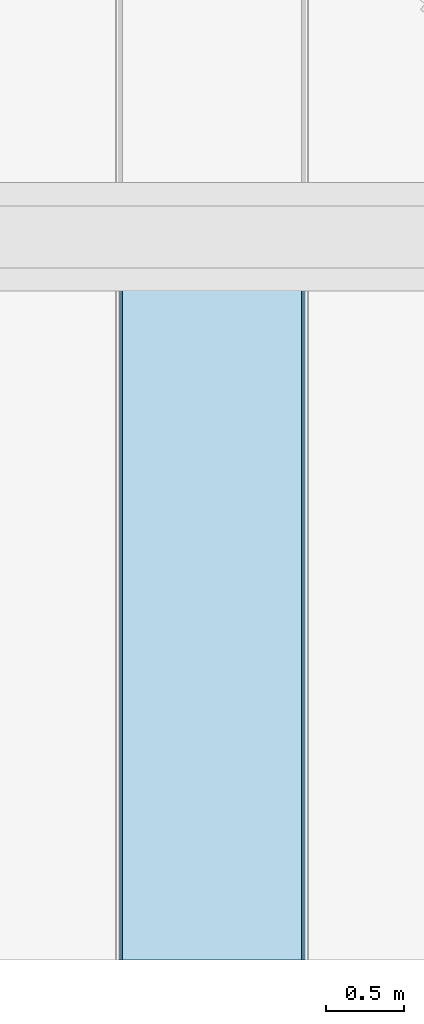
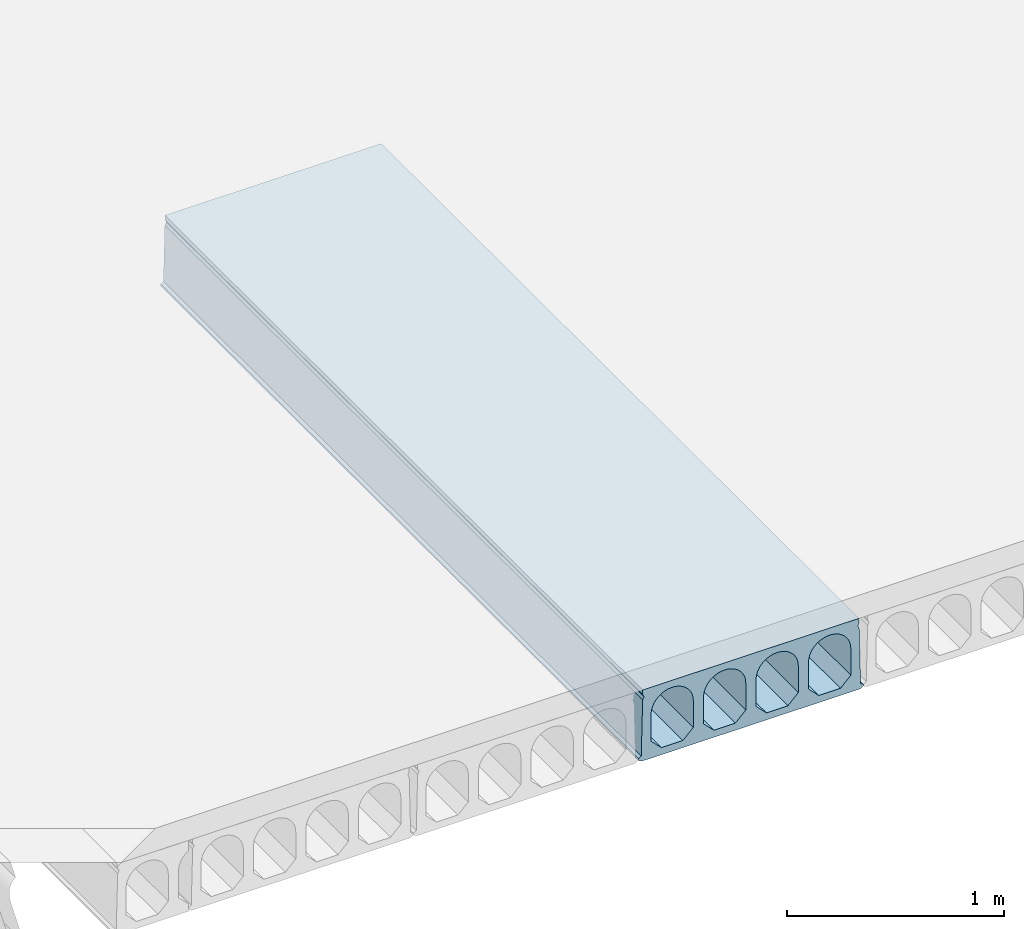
# One storey, part 46 of 98: 1 slab.
"""IFC2X3 building model written with IfcOpenShell, lengths in millimetres."""

from ifc_helpers import new_model, entity, si_unit, converted_unit, derived_unit, direction, frame, origin_with_axes, place, context, subcontext, project, spatial, faceted_brep, type_object, element, save


model = new_model("IFC2X3")

# Units and contexts
model_context = context("Model", 3, precision=0.01, world=frame((0.0, 4.29681676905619e-09, 0.0)), true_north=direction((4.01073788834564e-13, 1.0)))
plan_context = context("Plan", 3, precision=0.01, world=frame((0.0, 4.29681676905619e-09, 0.0)), true_north=direction((4.01073788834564e-13, 1.0)))
body_context = subcontext(model_context, "Body", "Model", "MODEL_VIEW")
ifc_project = project(units=[converted_unit("PLANEANGLEUNIT", "DEGREE", entity("IfcPositiveLengthMeasure", 0.0174532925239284), si_unit("PLANEANGLEUNIT", "RADIAN"), dimensions=[0, 0, 0, 0, 0, 0, 0]), si_unit("AREAUNIT", "SQUARE_METRE"), si_unit("LENGTHUNIT", "METRE", prefix="MILLI"), si_unit("MASSUNIT", "GRAM", prefix="KILO"), si_unit("POWERUNIT", "WATT"), si_unit("PRESSUREUNIT", "PASCAL"), si_unit("FORCEUNIT", "NEWTON", prefix="KILO"), si_unit("ELECTRICCURRENTUNIT", "AMPERE"), si_unit("THERMODYNAMICTEMPERATUREUNIT", "DEGREE_CELSIUS"), si_unit("TIMEUNIT", "SECOND"), si_unit("VOLUMEUNIT", "CUBIC_METRE"), derived_unit("LINEARVELOCITYUNIT", [(si_unit("LENGTHUNIT", "METRE"), 1), (si_unit("TIMEUNIT", "SECOND"), -1)]), derived_unit("VOLUMETRICFLOWRATEUNIT", [(si_unit("VOLUMEUNIT", "CUBIC_METRE"), 1), (si_unit("TIMEUNIT", "SECOND"), -1)]), derived_unit("THERMALTRANSMITTANCEUNIT", [(si_unit("POWERUNIT", "WATT"), 1), (si_unit("THERMODYNAMICTEMPERATUREUNIT", "KELVIN"), -1), (si_unit("AREAUNIT", "SQUARE_METRE"), -1)])], contexts=[model_context, plan_context])

# Site, building, storey
site_placement = place(None, frame((0.0, -4.29681676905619e-09, 0.0), z_axis=(0.0, 0.0, 1.0), x_axis=(1.0, 0.0, 0.0)))
site = spatial("IfcSite", under=ifc_project, at=site_placement, Name="Gardermoen", CompositionType="ELEMENT")
building_placement = place(site_placement, frame((0.0, 4.29681676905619e-09, 0.0), z_axis=(0.0, 0.0, 1.0), x_axis=(1.0, 0.0, 0.0)))
building = spatial("IfcBuilding", under=site, at=building_placement, Name="TS", CompositionType="ELEMENT")
storey_placement = place(building_placement, origin_with_axes())
storey = spatial("IfcBuildingStorey", under=building, at=storey_placement, Name="D", CompositionType="ELEMENT", Elevation=0.0)

# Slab
slab_type = type_object("IfcSlabType", Name="HD400", PredefinedType="NOTDEFINED")
slab_placement = place(storey_placement, frame((523599.999766, 396739.995625, 203600.0), z_axis=(0.0, 0.0, 1.0), x_axis=(0.0, 1.0, 0.0)))
element("IfcSlab", 1, at=slab_placement, inside=storey, type_object=slab_type, Name="HULLDEKKE", ObjectType="HD400", PredefinedType="FLOOR", context=body_context, shape_type="Brep", body=[
    faceted_brep([(4105.68103395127, 600.0, -180.0), (4105.68103395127, 600.0, -190.0), (8520.0, 600.0, -190.0), (8520.0, 600.0, -180.0), (4105.68103395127, 585.0, -170.0), (8520.0, 585.0, -170.0), (4105.68103395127, 577.5, 145.0), (8520.0, 577.5, 145.0), (4105.68103395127, 570.0, 160.0), (8520.0, 570.0, 160.0), (4105.68103395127, 577.5, 175.0), (8520.0, 577.5, 175.0), (4105.68103395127, 577.5, 200.0), (8520.0, 577.5, 200.0), (4105.68103395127, -577.5, 200.0), (8520.0, -577.5, 200.0), (4105.68103395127, -577.5, 175.0), (8520.0, -577.5, 175.0), (4105.68103395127, -570.0, 160.0), (8520.0, -570.0, 160.0), (4105.68103395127, -577.5, 145.0), (8520.0, -577.5, 145.0), (4105.68103395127, -585.0, -170.0), (8520.0, -585.0, -170.0), (4105.68103395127, -600.0, -180.0), (8520.0, -600.0, -180.0), (4105.68103395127, -600.0, -190.0), (8520.0, -600.0, -190.0), (4105.68103395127, -583.380004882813, -200.0), (8520.0, -583.380004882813, -200.0), (4105.68103395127, 583.380004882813, -200.0), (8520.0, 583.380004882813, -200.0), (4105.68103395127, -477.5, -160.0), (4105.68103395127, -362.5, -160.0), (8520.0, -362.5, -160.0), (8520.0, -477.5, -160.0), (4105.68103395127, -532.5, -105.0), (8520.0, -532.5, -105.0), (4105.68103395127, -532.5, 47.5), (8520.0, -532.5, 47.5), (4105.68103395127, -532.115755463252, 56.7901763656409), (8520.0, -532.115755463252, 56.7901763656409), (4105.68103395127, -530.965646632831, 66.0168914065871), (8520.0, -530.965646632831, 66.0168914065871), (4105.68103395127, -529.057529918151, 75.1171173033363), (8520.0, -529.057529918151, 75.1171173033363), (4105.68103395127, -526.404439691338, 84.028690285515), (8520.0, -526.404439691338, 84.028690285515), (4105.68103395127, -523.024499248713, 92.6907352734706), (8520.0, -523.024499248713, 92.6907352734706), (4105.68103395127, -518.940797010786, 101.044081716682), (8520.0, -518.940797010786, 101.044081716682), (4105.68103395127, -514.181228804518, 109.031667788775), (8520.0, -514.181228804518, 109.031667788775), (4105.68103395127, -508.778307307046, 116.598930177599), (8520.0, -508.778307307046, 116.598930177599), (4105.68103395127, -502.768939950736, 123.694176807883), (8520.0, -502.768939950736, 123.694176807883), (4105.68103395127, -496.194176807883, 130.268939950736), (8520.0, -496.194176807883, 130.268939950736), (4105.68103395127, -489.098930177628, 136.278307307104), (8520.0, -489.098930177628, 136.278307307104), (4105.68103395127, -481.531667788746, 141.681228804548), (8520.0, -481.531667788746, 141.681228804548), (4105.68103395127, -473.544081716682, 146.440797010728), (8520.0, -473.544081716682, 146.440797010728), (4105.68103395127, -465.190735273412, 150.524499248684), (8520.0, -465.190735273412, 150.524499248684), (4105.68103395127, -456.528690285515, 153.904439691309), (8520.0, -456.528690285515, 153.904439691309), (4105.68103395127, -447.617117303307, 156.55752991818), (8520.0, -447.617117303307, 156.55752991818), (4105.68103395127, -438.516891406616, 158.465646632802), (8520.0, -438.516891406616, 158.465646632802), (4105.68103395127, -429.290176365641, 159.615755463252), (8520.0, -429.290176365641, 159.615755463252), (4105.68103395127, -420.0, 160.0), (8520.0, -420.0, 160.0), (4105.68103395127, -410.709823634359, 159.615755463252), (8520.0, -410.709823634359, 159.615755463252), (4105.68103395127, -401.483108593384, 158.465646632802), (8520.0, -401.483108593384, 158.465646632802), (4105.68103395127, -392.382882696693, 156.55752991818), (8520.0, -392.382882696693, 156.55752991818), (4105.68103395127, -383.471309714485, 153.904439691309), (8520.0, -383.471309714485, 153.904439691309), (4105.68103395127, -374.809264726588, 150.524499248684), (8520.0, -374.809264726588, 150.524499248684), (4105.68103395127, -366.455918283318, 146.440797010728), (8520.0, -366.455918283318, 146.440797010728), (4105.68103395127, -358.468332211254, 141.681228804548), (8520.0, -358.468332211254, 141.681228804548), (4105.68103395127, -350.901069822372, 136.278307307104), (8520.0, -350.901069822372, 136.278307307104), (4105.68103395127, -343.805823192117, 130.268939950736), (8520.0, -343.805823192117, 130.268939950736), (4105.68103395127, -337.231060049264, 123.694176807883), (8520.0, -337.231060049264, 123.694176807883), (4105.68103395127, -331.221692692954, 116.598930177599), (8520.0, -331.221692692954, 116.598930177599), (4105.68103395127, -325.818771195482, 109.031667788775), (8520.0, -325.818771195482, 109.031667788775), (4105.68103395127, -321.059202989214, 101.044081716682), (8520.0, -321.059202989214, 101.044081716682), (4105.68103395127, -316.975500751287, 92.6907352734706), (8520.0, -316.975500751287, 92.6907352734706), (4105.68103395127, -313.595560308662, 84.028690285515), (8520.0, -313.595560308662, 84.028690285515), (4105.68103395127, -310.942470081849, 75.1171173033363), (8520.0, -310.942470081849, 75.1171173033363), (4105.68103395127, -309.034353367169, 66.0168914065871), (8520.0, -309.034353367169, 66.0168914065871), (4105.68103395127, -307.884244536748, 56.7901763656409), (8520.0, -307.884244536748, 56.7901763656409), (4105.68103395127, -307.5, 47.5), (8520.0, -307.5, 47.5), (4105.68103395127, -307.5, -105.0), (8520.0, -307.5, -105.0), (4105.68103395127, -197.5, -160.0), (4105.68103395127, -82.5, -160.0), (8520.0, -82.5, -160.0), (8520.0, -197.5, -160.0), (4105.68103395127, -252.5, -105.0), (8520.0, -252.5, -105.0), (4105.68103395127, -252.5, 47.5), (8520.0, -252.5, 47.5), (4105.68103395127, -252.115755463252, 56.7901763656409), (8520.0, -252.115755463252, 56.7901763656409), (4105.68103395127, -250.965646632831, 66.0168914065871), (8520.0, -250.965646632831, 66.0168914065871), (4105.68103395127, -249.057529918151, 75.1171173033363), (8520.0, -249.057529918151, 75.1171173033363), (4105.68103395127, -246.404439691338, 84.028690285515), (8520.0, -246.404439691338, 84.028690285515), (4105.68103395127, -243.024499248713, 92.6907352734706), (8520.0, -243.024499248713, 92.6907352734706), (4105.68103395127, -238.940797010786, 101.044081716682), (8520.0, -238.940797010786, 101.044081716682), (4105.68103395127, -234.181228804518, 109.031667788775), (8520.0, -234.181228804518, 109.031667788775), (4105.68103395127, -228.778307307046, 116.598930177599), (8520.0, -228.778307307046, 116.598930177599), (4105.68103395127, -222.768939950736, 123.694176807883), (8520.0, -222.768939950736, 123.694176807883), (4105.68103395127, -216.194176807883, 130.268939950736), (8520.0, -216.194176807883, 130.268939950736), (4105.68103395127, -209.098930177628, 136.278307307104), (8520.0, -209.098930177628, 136.278307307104), (4105.68103395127, -201.531667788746, 141.681228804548), (8520.0, -201.531667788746, 141.681228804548), (4105.68103395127, -193.544081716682, 146.440797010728), (8520.0, -193.544081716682, 146.440797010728), (4105.68103395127, -185.190735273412, 150.524499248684), (8520.0, -185.190735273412, 150.524499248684), (4105.68103395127, -176.528690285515, 153.904439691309), (8520.0, -176.528690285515, 153.904439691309), (4105.68103395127, -167.617117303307, 156.55752991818), (8520.0, -167.617117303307, 156.55752991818), (4105.68103395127, -158.516891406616, 158.465646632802), (8520.0, -158.516891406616, 158.465646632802), (4105.68103395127, -149.290176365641, 159.615755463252), (8520.0, -149.290176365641, 159.615755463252), (4105.68103395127, -140.0, 160.0), (8520.0, -140.0, 160.0), (4105.68103395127, -130.709823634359, 159.615755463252), (8520.0, -130.709823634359, 159.615755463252), (4105.68103395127, -121.483108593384, 158.465646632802), (8520.0, -121.483108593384, 158.465646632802), (4105.68103395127, -112.382882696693, 156.55752991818), (8520.0, -112.382882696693, 156.55752991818), (4105.68103395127, -103.471309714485, 153.904439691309), (8520.0, -103.471309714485, 153.904439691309), (4105.68103395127, -94.8092647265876, 150.524499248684), (8520.0, -94.8092647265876, 150.524499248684), (4105.68103395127, -86.4559182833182, 146.440797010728), (8520.0, -86.4559182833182, 146.440797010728), (4105.68103395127, -78.4683322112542, 141.681228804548), (8520.0, -78.4683322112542, 141.681228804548), (4105.68103395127, -70.9010698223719, 136.278307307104), (8520.0, -70.9010698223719, 136.278307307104), (4105.68103395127, -63.8058231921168, 130.268939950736), (8520.0, -63.8058231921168, 130.268939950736), (4105.68103395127, -57.2310600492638, 123.694176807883), (8520.0, -57.2310600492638, 123.694176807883), (4105.68103395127, -51.2216926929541, 116.598930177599), (8520.0, -51.2216926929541, 116.598930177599), (4105.68103395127, -45.8187711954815, 109.031667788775), (8520.0, -45.8187711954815, 109.031667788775), (4105.68103395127, -41.0592029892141, 101.044081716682), (8520.0, -41.0592029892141, 101.044081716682), (4105.68103395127, -36.9755007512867, 92.6907352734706), (8520.0, -36.9755007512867, 92.6907352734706), (4105.68103395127, -33.5955603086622, 84.028690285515), (8520.0, -33.5955603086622, 84.028690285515), (4105.68103395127, -30.942470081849, 75.1171173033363), (8520.0, -30.942470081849, 75.1171173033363), (4105.68103395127, -29.0343533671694, 66.0168914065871), (8520.0, -29.0343533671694, 66.0168914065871), (4105.68103395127, -27.8842445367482, 56.7901763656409), (8520.0, -27.8842445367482, 56.7901763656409), (4105.68103395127, -27.5, 47.5), (8520.0, -27.5, 47.5), (4105.68103395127, -27.5, -105.0), (8520.0, -27.5, -105.0), (4105.68103395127, 82.5, -160.0), (4105.68103395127, 197.5, -160.0), (8520.0, 197.5, -160.0), (8520.0, 82.5, -160.0), (4105.68103395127, 27.5, -105.0), (8520.0, 27.5, -105.0), (4105.68103395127, 27.5, 47.5), (8520.0, 27.5, 47.5), (4105.68103395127, 27.8842445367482, 56.7901763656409), (8520.0, 27.8842445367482, 56.7901763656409), (4105.68103395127, 29.0343533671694, 66.0168914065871), (8520.0, 29.0343533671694, 66.0168914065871), (4105.68103395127, 30.942470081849, 75.1171173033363), (8520.0, 30.942470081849, 75.1171173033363), (4105.68103395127, 33.5955603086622, 84.028690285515), (8520.0, 33.5955603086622, 84.028690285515), (4105.68103395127, 36.9755007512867, 92.6907352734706), (8520.0, 36.9755007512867, 92.6907352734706), (4105.68103395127, 41.0592029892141, 101.044081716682), (8520.0, 41.0592029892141, 101.044081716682), (4105.68103395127, 45.8187711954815, 109.031667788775), (8520.0, 45.8187711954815, 109.031667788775), (4105.68103395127, 51.2216926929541, 116.598930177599), (8520.0, 51.2216926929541, 116.598930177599), (4105.68103395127, 57.2310600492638, 123.694176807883), (8520.0, 57.2310600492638, 123.694176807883), (4105.68103395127, 63.8058231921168, 130.268939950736), (8520.0, 63.8058231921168, 130.268939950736), (4105.68103395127, 70.9010698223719, 136.278307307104), (8520.0, 70.9010698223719, 136.278307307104), (4105.68103395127, 78.4683322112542, 141.681228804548), (8520.0, 78.4683322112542, 141.681228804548), (4105.68103395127, 86.4559182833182, 146.440797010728), (8520.0, 86.4559182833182, 146.440797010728), (4105.68103395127, 94.8092647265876, 150.524499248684), (8520.0, 94.8092647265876, 150.524499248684), (4105.68103395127, 103.471309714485, 153.904439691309), (8520.0, 103.471309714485, 153.904439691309), (4105.68103395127, 112.382882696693, 156.55752991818), (8520.0, 112.382882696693, 156.55752991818), (4105.68103395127, 121.483108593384, 158.465646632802), (8520.0, 121.483108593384, 158.465646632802), (4105.68103395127, 130.709823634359, 159.615755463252), (8520.0, 130.709823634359, 159.615755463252), (4105.68103395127, 140.0, 160.0), (8520.0, 140.0, 160.0), (4105.68103395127, 149.290176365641, 159.615755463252), (8520.0, 149.290176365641, 159.615755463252), (4105.68103395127, 158.516891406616, 158.465646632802), (8520.0, 158.516891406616, 158.465646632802), (4105.68103395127, 167.617117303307, 156.55752991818), (8520.0, 167.617117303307, 156.55752991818), (4105.68103395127, 176.528690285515, 153.904439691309), (8520.0, 176.528690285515, 153.904439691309), (4105.68103395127, 185.190735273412, 150.524499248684), (8520.0, 185.190735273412, 150.524499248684), (4105.68103395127, 193.544081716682, 146.440797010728), (8520.0, 193.544081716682, 146.440797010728), (4105.68103395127, 201.531667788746, 141.681228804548), (8520.0, 201.531667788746, 141.681228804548), (4105.68103395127, 209.098930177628, 136.278307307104), (8520.0, 209.098930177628, 136.278307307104), (4105.68103395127, 216.194176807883, 130.268939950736), (8520.0, 216.194176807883, 130.268939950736), (4105.68103395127, 222.768939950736, 123.694176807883), (8520.0, 222.768939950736, 123.694176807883), (4105.68103395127, 228.778307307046, 116.598930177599), (8520.0, 228.778307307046, 116.598930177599), (4105.68103395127, 234.181228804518, 109.031667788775), (8520.0, 234.181228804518, 109.031667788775), (4105.68103395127, 238.940797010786, 101.044081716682), (8520.0, 238.940797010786, 101.044081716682), (4105.68103395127, 243.024499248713, 92.6907352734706), (8520.0, 243.024499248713, 92.6907352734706), (4105.68103395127, 246.404439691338, 84.028690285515), (8520.0, 246.404439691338, 84.028690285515), (4105.68103395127, 249.057529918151, 75.1171173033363), (8520.0, 249.057529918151, 75.1171173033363), (4105.68103395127, 250.965646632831, 66.0168914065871), (8520.0, 250.965646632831, 66.0168914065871), (4105.68103395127, 252.115755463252, 56.7901763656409), (8520.0, 252.115755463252, 56.7901763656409), (4105.68103395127, 252.5, 47.5), (8520.0, 252.5, 47.5), (4105.68103395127, 252.5, -105.0), (8520.0, 252.5, -105.0), (4105.68103395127, 362.5, -160.0), (4105.68103395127, 477.5, -160.0), (8520.0, 477.5, -160.0), (8520.0, 362.5, -160.0), (4105.68103395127, 307.5, -105.0), (8520.0, 307.5, -105.0), (4105.68103395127, 307.5, 47.5), (8520.0, 307.5, 47.5), (4105.68103395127, 307.884244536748, 56.7901763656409), (8520.0, 307.884244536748, 56.7901763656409), (4105.68103395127, 309.034353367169, 66.0168914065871), (8520.0, 309.034353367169, 66.0168914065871), (4105.68103395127, 310.942470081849, 75.1171173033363), (8520.0, 310.942470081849, 75.1171173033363), (4105.68103395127, 313.595560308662, 84.028690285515), (8520.0, 313.595560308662, 84.028690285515), (4105.68103395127, 316.975500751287, 92.6907352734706), (8520.0, 316.975500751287, 92.6907352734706), (4105.68103395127, 321.059202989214, 101.044081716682), (8520.0, 321.059202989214, 101.044081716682), (4105.68103395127, 325.818771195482, 109.031667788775), (8520.0, 325.818771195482, 109.031667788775), (4105.68103395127, 331.221692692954, 116.598930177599), (8520.0, 331.221692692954, 116.598930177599), (4105.68103395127, 337.231060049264, 123.694176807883), (8520.0, 337.231060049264, 123.694176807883), (4105.68103395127, 343.805823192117, 130.268939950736), (8520.0, 343.805823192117, 130.268939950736), (4105.68103395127, 350.901069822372, 136.278307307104), (8520.0, 350.901069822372, 136.278307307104), (4105.68103395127, 358.468332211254, 141.681228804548), (8520.0, 358.468332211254, 141.681228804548), (4105.68103395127, 366.455918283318, 146.440797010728), (8520.0, 366.455918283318, 146.440797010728), (4105.68103395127, 374.809264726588, 150.524499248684), (8520.0, 374.809264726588, 150.524499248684), (4105.68103395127, 383.471309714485, 153.904439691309), (8520.0, 383.471309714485, 153.904439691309), (4105.68103395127, 392.382882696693, 156.55752991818), (8520.0, 392.382882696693, 156.55752991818), (4105.68103395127, 401.483108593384, 158.465646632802), (8520.0, 401.483108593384, 158.465646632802), (4105.68103395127, 410.709823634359, 159.615755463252), (8520.0, 410.709823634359, 159.615755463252), (4105.68103395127, 420.0, 160.0), (8520.0, 420.0, 160.0), (4105.68103395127, 429.290176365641, 159.615755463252), (8520.0, 429.290176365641, 159.615755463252), (4105.68103395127, 438.516891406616, 158.465646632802), (8520.0, 438.516891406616, 158.465646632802), (4105.68103395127, 447.617117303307, 156.55752991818), (8520.0, 447.617117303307, 156.55752991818), (4105.68103395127, 456.528690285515, 153.904439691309), (8520.0, 456.528690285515, 153.904439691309), (4105.68103395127, 465.190735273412, 150.524499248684), (8520.0, 465.190735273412, 150.524499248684), (4105.68103395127, 473.544081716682, 146.440797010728), (8520.0, 473.544081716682, 146.440797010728), (4105.68103395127, 481.531667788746, 141.681228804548), (8520.0, 481.531667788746, 141.681228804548), (4105.68103395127, 489.098930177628, 136.278307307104), (8520.0, 489.098930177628, 136.278307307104), (4105.68103395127, 496.194176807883, 130.268939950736), (8520.0, 496.194176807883, 130.268939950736), (4105.68103395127, 502.768939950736, 123.694176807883), (8520.0, 502.768939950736, 123.694176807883), (4105.68103395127, 508.778307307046, 116.598930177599), (8520.0, 508.778307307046, 116.598930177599), (4105.68103395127, 514.181228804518, 109.031667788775), (8520.0, 514.181228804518, 109.031667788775), (4105.68103395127, 518.940797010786, 101.044081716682), (8520.0, 518.940797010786, 101.044081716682), (4105.68103395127, 523.024499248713, 92.6907352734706), (8520.0, 523.024499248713, 92.6907352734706), (4105.68103395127, 526.404439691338, 84.028690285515), (8520.0, 526.404439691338, 84.028690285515), (4105.68103395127, 529.057529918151, 75.1171173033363), (8520.0, 529.057529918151, 75.1171173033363), (4105.68103395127, 530.965646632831, 66.0168914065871), (8520.0, 530.965646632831, 66.0168914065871), (4105.68103395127, 532.115755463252, 56.7901763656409), (8520.0, 532.115755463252, 56.7901763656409), (4105.68103395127, 532.5, 47.5), (8520.0, 532.5, 47.5), (4105.68103395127, 532.5, -105.0), (8520.0, 532.5, -105.0)], [[[0, 1, 2, 3]], [[4, 0, 3, 5]], [[6, 4, 5, 7]], [[8, 6, 7, 9]], [[10, 8, 9, 11]], [[12, 10, 11, 13]], [[14, 12, 13, 15]], [[16, 14, 15, 17]], [[18, 16, 17, 19]], [[20, 18, 19, 21]], [[22, 20, 21, 23]], [[24, 22, 23, 25]], [[26, 24, 25, 27]], [[28, 26, 27, 29]], [[30, 28, 29, 31]], [[1, 30, 31, 2]], [[32, 33, 34, 35]], [[36, 32, 35, 37]], [[38, 36, 37, 39]], [[40, 38, 39, 41]], [[42, 40, 41, 43]], [[44, 42, 43, 45]], [[46, 44, 45, 47]], [[48, 46, 47, 49]], [[50, 48, 49, 51]], [[52, 50, 51, 53]], [[54, 52, 53, 55]], [[56, 54, 55, 57]], [[58, 56, 57, 59]], [[60, 58, 59, 61]], [[62, 60, 61, 63]], [[64, 62, 63, 65]], [[66, 64, 65, 67]], [[68, 66, 67, 69]], [[70, 68, 69, 71]], [[72, 70, 71, 73]], [[74, 72, 73, 75]], [[76, 74, 75, 77]], [[78, 76, 77, 79]], [[80, 78, 79, 81]], [[82, 80, 81, 83]], [[84, 82, 83, 85]], [[86, 84, 85, 87]], [[88, 86, 87, 89]], [[90, 88, 89, 91]], [[92, 90, 91, 93]], [[94, 92, 93, 95]], [[96, 94, 95, 97]], [[98, 96, 97, 99]], [[100, 98, 99, 101]], [[102, 100, 101, 103]], [[104, 102, 103, 105]], [[106, 104, 105, 107]], [[108, 106, 107, 109]], [[110, 108, 109, 111]], [[112, 110, 111, 113]], [[114, 112, 113, 115]], [[116, 114, 115, 117]], [[33, 116, 117, 34]], [[118, 119, 120, 121]], [[122, 118, 121, 123]], [[124, 122, 123, 125]], [[126, 124, 125, 127]], [[128, 126, 127, 129]], [[130, 128, 129, 131]], [[132, 130, 131, 133]], [[134, 132, 133, 135]], [[136, 134, 135, 137]], [[138, 136, 137, 139]], [[140, 138, 139, 141]], [[142, 140, 141, 143]], [[144, 142, 143, 145]], [[146, 144, 145, 147]], [[148, 146, 147, 149]], [[150, 148, 149, 151]], [[152, 150, 151, 153]], [[154, 152, 153, 155]], [[156, 154, 155, 157]], [[158, 156, 157, 159]], [[160, 158, 159, 161]], [[162, 160, 161, 163]], [[164, 162, 163, 165]], [[166, 164, 165, 167]], [[168, 166, 167, 169]], [[170, 168, 169, 171]], [[172, 170, 171, 173]], [[174, 172, 173, 175]], [[176, 174, 175, 177]], [[178, 176, 177, 179]], [[180, 178, 179, 181]], [[182, 180, 181, 183]], [[184, 182, 183, 185]], [[186, 184, 185, 187]], [[188, 186, 187, 189]], [[190, 188, 189, 191]], [[192, 190, 191, 193]], [[194, 192, 193, 195]], [[196, 194, 195, 197]], [[198, 196, 197, 199]], [[200, 198, 199, 201]], [[202, 200, 201, 203]], [[119, 202, 203, 120]], [[204, 205, 206, 207]], [[208, 204, 207, 209]], [[210, 208, 209, 211]], [[212, 210, 211, 213]], [[214, 212, 213, 215]], [[216, 214, 215, 217]], [[218, 216, 217, 219]], [[220, 218, 219, 221]], [[222, 220, 221, 223]], [[224, 222, 223, 225]], [[226, 224, 225, 227]], [[228, 226, 227, 229]], [[230, 228, 229, 231]], [[232, 230, 231, 233]], [[234, 232, 233, 235]], [[236, 234, 235, 237]], [[238, 236, 237, 239]], [[240, 238, 239, 241]], [[242, 240, 241, 243]], [[244, 242, 243, 245]], [[246, 244, 245, 247]], [[248, 246, 247, 249]], [[250, 248, 249, 251]], [[252, 250, 251, 253]], [[254, 252, 253, 255]], [[256, 254, 255, 257]], [[258, 256, 257, 259]], [[260, 258, 259, 261]], [[262, 260, 261, 263]], [[264, 262, 263, 265]], [[266, 264, 265, 267]], [[268, 266, 267, 269]], [[270, 268, 269, 271]], [[272, 270, 271, 273]], [[274, 272, 273, 275]], [[276, 274, 275, 277]], [[278, 276, 277, 279]], [[280, 278, 279, 281]], [[282, 280, 281, 283]], [[284, 282, 283, 285]], [[286, 284, 285, 287]], [[288, 286, 287, 289]], [[205, 288, 289, 206]], [[290, 291, 292, 293]], [[294, 290, 293, 295]], [[296, 294, 295, 297]], [[298, 296, 297, 299]], [[300, 298, 299, 301]], [[302, 300, 301, 303]], [[304, 302, 303, 305]], [[306, 304, 305, 307]], [[308, 306, 307, 309]], [[310, 308, 309, 311]], [[312, 310, 311, 313]], [[314, 312, 313, 315]], [[316, 314, 315, 317]], [[318, 316, 317, 319]], [[320, 318, 319, 321]], [[322, 320, 321, 323]], [[324, 322, 323, 325]], [[326, 324, 325, 327]], [[328, 326, 327, 329]], [[330, 328, 329, 331]], [[332, 330, 331, 333]], [[334, 332, 333, 335]], [[336, 334, 335, 337]], [[338, 336, 337, 339]], [[340, 338, 339, 341]], [[342, 340, 341, 343]], [[344, 342, 343, 345]], [[346, 344, 345, 347]], [[348, 346, 347, 349]], [[350, 348, 349, 351]], [[352, 350, 351, 353]], [[354, 352, 353, 355]], [[356, 354, 355, 357]], [[358, 356, 357, 359]], [[360, 358, 359, 361]], [[362, 360, 361, 363]], [[364, 362, 363, 365]], [[366, 364, 365, 367]], [[368, 366, 367, 369]], [[370, 368, 369, 371]], [[372, 370, 371, 373]], [[374, 372, 373, 375]], [[291, 374, 375, 292]], [[3, 2, 31, 29, 27, 25, 23, 21, 19, 17, 15, 13, 11, 9, 7, 5], [293, 292, 375, 373, 371, 369, 367, 365, 363, 361, 359, 357, 355, 353, 351, 349, 347, 345, 343, 341, 339, 337, 335, 333, 331, 329, 327, 325, 323, 321, 319, 317, 315, 313, 311, 309, 307, 305, 303, 301, 299, 297, 295], [207, 206, 289, 287, 285, 283, 281, 279, 277, 275, 273, 271, 269, 267, 265, 263, 261, 259, 257, 255, 253, 251, 249, 247, 245, 243, 241, 239, 237, 235, 233, 231, 229, 227, 225, 223, 221, 219, 217, 215, 213, 211, 209], [121, 120, 203, 201, 199, 197, 195, 193, 191, 189, 187, 185, 183, 181, 179, 177, 175, 173, 171, 169, 167, 165, 163, 161, 159, 157, 155, 153, 151, 149, 147, 145, 143, 141, 139, 137, 135, 133, 131, 129, 127, 125, 123], [35, 34, 117, 115, 113, 111, 109, 107, 105, 103, 101, 99, 97, 95, 93, 91, 89, 87, 85, 83, 81, 79, 77, 75, 73, 71, 69, 67, 65, 63, 61, 59, 57, 55, 53, 51, 49, 47, 45, 43, 41, 39, 37]], [[4, 6, 8, 10, 12, 14, 16, 18, 20, 22, 24, 26, 28, 30, 1, 0], [36, 38, 40, 42, 44, 46, 48, 50, 52, 54, 56, 58, 60, 62, 64, 66, 68, 70, 72, 74, 76, 78, 80, 82, 84, 86, 88, 90, 92, 94, 96, 98, 100, 102, 104, 106, 108, 110, 112, 114, 116, 33, 32], [122, 124, 126, 128, 130, 132, 134, 136, 138, 140, 142, 144, 146, 148, 150, 152, 154, 156, 158, 160, 162, 164, 166, 168, 170, 172, 174, 176, 178, 180, 182, 184, 186, 188, 190, 192, 194, 196, 198, 200, 202, 119, 118], [208, 210, 212, 214, 216, 218, 220, 222, 224, 226, 228, 230, 232, 234, 236, 238, 240, 242, 244, 246, 248, 250, 252, 254, 256, 258, 260, 262, 264, 266, 268, 270, 272, 274, 276, 278, 280, 282, 284, 286, 288, 205, 204], [294, 296, 298, 300, 302, 304, 306, 308, 310, 312, 314, 316, 318, 320, 322, 324, 326, 328, 330, 332, 334, 336, 338, 340, 342, 344, 346, 348, 350, 352, 354, 356, 358, 360, 362, 364, 366, 368, 370, 372, 374, 291, 290]]], orient=[[False], [False], [False], [False], [False], [False], [False], [False], [False], [False], [False], [False], [False], [False], [False], [False], [False], [False], [False], [False], [False], [False], [False], [False], [False], [False], [False], [False], [False], [False], [False], [False], [False], [False], [False], [False], [False], [False], [False], [False], [False], [False], [False], [False], [False], [False], [False], [False], [False], [False], [False], [False], [False], [False], [False], [False], [False], [False], [False], [False], [False], [False], [False], [False], [False], [False], [False], [False], [False], [False], [False], [False], [False], [False], [False], [False], [False], [False], [False], [False], [False], [False], [False], [False], [False], [False], [False], [False], [False], [False], [False], [False], [False], [False], [False], [False], [False], [False], [False], [False], [False], [False], [False], [False], [False], [False], [False], [False], [False], [False], [False], [False], [False], [False], [False], [False], [False], [False], [False], [False], [False], [False], [False], [False], [False], [False], [False], [False], [False], [False], [False], [False], [False], [False], [False], [False], [False], [False], [False], [False], [False], [False], [False], [False], [False], [False], [False], [False], [False], [False], [False], [False], [False], [False], [False], [False], [False], [False], [False], [False], [False], [False], [False], [False], [False], [False], [False], [False], [False], [False], [False], [False], [False], [False], [False], [False], [False], [False], [False], [False], [False], [False], [False], [False], [False], [False], [False], [False], [False, False, False, False, False], [False, False, False, False, False]]),
])

save(model, "model.ifc")
